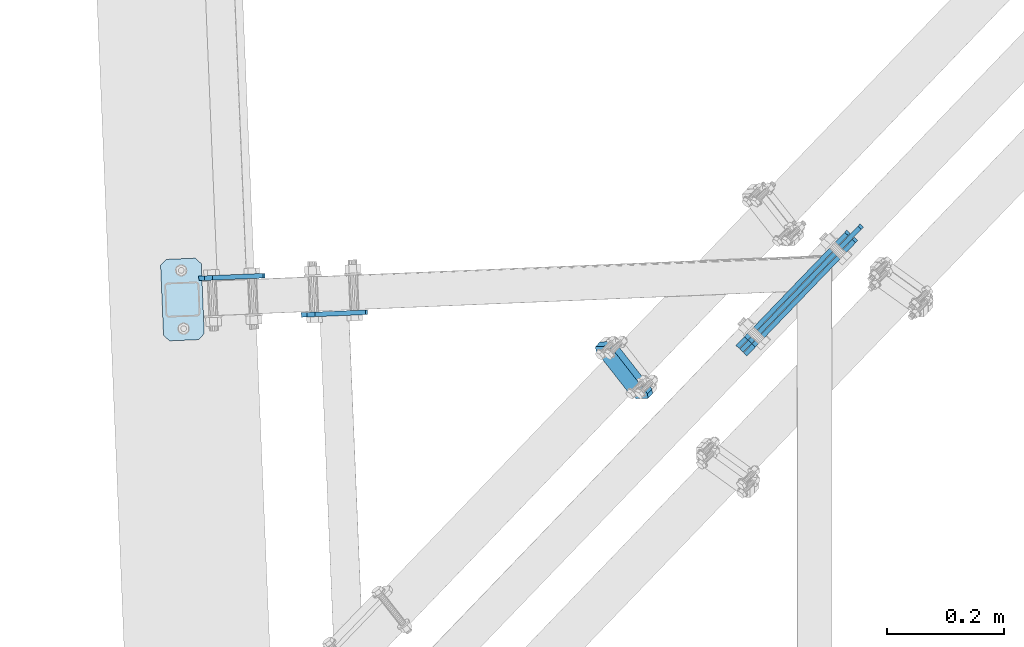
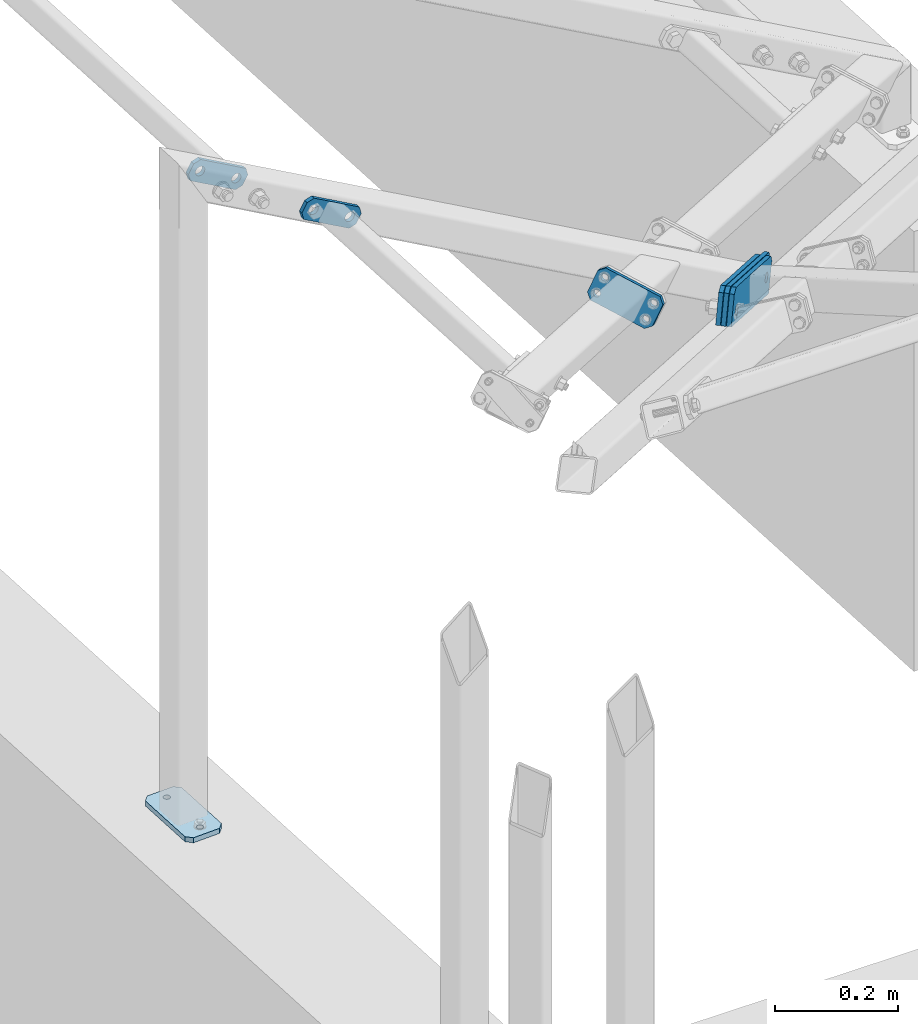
# One storey, part 25 of 288: 7 plates, 38 openings.
"""IFC2X3 building model written with IfcOpenShell, lengths in millimetres."""

import ifcopenshell
import ifcopenshell.guid

model = None  # the IFC model being written
_history = None  # IfcOwnerHistory: only IFC2X3 demands one
_inside = {}  # id of a spatial element -> (the spatial element, [elements in it])
_under = {}  # id of a project, library or spatial element -> (it, [spatial elements below it])
_declared = {}  # id of a project -> (the project, [libraries it declares])
_typed = {}  # id of a type object -> (the type object, [elements of that type])
_made_of = {}  # id of a material, layer set ... -> (it, [elements and type objects made of it])


def new_model(schema):
    """Start an empty IFC model of exactly this schema.

    Asked for "IFC4X3", IfcOpenShell would pick the latest addendum, in which some entities
    have other attributes; the version numbers below select the first issue.
    IFC2X3 requires an IfcOwnerHistory on every rooted entity: one is made here for all.
    """
    global model, _history
    if schema == "IFC4X3":
        model = ifcopenshell.file(schema_version=(4, 3, 0, 0))
    else:
        model = ifcopenshell.file(schema=schema)
    _inside.clear()
    _under.clear()
    _declared.clear()
    _typed.clear()
    _made_of.clear()
    _history = None
    if model.schema == "IFC2X3":
        org = make("IfcOrganization", Name="unknown")
        user = make(
            "IfcPersonAndOrganization",
            ThePerson=make("IfcPerson", FamilyName="unknown"),
            TheOrganization=org,
        )
        app = make(
            "IfcApplication",
            ApplicationDeveloper=org,
            Version="unknown",
            ApplicationFullName="unknown",
            ApplicationIdentifier="unknown",
        )
        _history = make(
            "IfcOwnerHistory",
            OwningUser=user,
            OwningApplication=app,
            ChangeAction="ADDED",
            CreationDate=0,
        )
    return model


def make(cls, **values):
    """One entity of the class cls with the attributes given. An attribute that is None is left unset."""
    return model.create_entity(
        cls, **{name: value for name, value in values.items() if value is not None}
    )


def entity(cls, *values):
    """Any entity or typed value of the class cls, its attributes in the order of the schema. None: left unset."""
    e = model.create_entity(cls)
    for i, value in enumerate(values):
        if value is not None:
            e[i] = value
    return e


def rooted(cls, **values):
    """An entity with a GlobalId (a new one), such as an element, a storey or a relation."""
    return make(cls, GlobalId=ifcopenshell.guid.new(), OwnerHistory=_history, **values)


def si_unit(unit_type, name, prefix=None):
    """IfcSIUnit, for example si_unit("LENGTHUNIT", "METRE", prefix="MILLI")."""
    return make("IfcSIUnit", UnitType=unit_type, Prefix=prefix, Name=name)


def converted_unit(unit_type, name, factor, base, dimensions=None, offset=None):
    """IfcConversionBasedUnit, such as the inch: factor (a typed value) times the base unit."""
    return make(
        "IfcConversionBasedUnit"
        if offset is None
        else "IfcConversionBasedUnitWithOffset",
        ConversionOffset=offset,
        Dimensions=None
        if dimensions is None
        else entity("IfcDimensionalExponents", *dimensions),
        UnitType=unit_type,
        Name=name,
        ConversionFactor=make(
            "IfcMeasureWithUnit", ValueComponent=factor, UnitComponent=base
        ),
    )


def assignment(units):
    """IfcUnitAssignment: the units of a project."""
    return None if units is None else make("IfcUnitAssignment", Units=units)


def point(xyz):
    """IfcCartesianPoint."""
    return None if xyz is None else make("IfcCartesianPoint", Coordinates=xyz)


def direction(xyz):
    """IfcDirection."""
    return None if xyz is None else make("IfcDirection", DirectionRatios=xyz)


def frame(location, z_axis=None, x_axis=None):
    """IfcAxis2Placement3D, a coordinate frame: its origin and axes. An axis left out is left unset."""
    return make(
        "IfcAxis2Placement3D",
        Location=point(location),
        Axis=direction(z_axis),
        RefDirection=direction(x_axis),
    )


def frame_2d(location, x_axis=None):
    """IfcAxis2Placement2D, a coordinate frame in the plane: its origin and x axis."""
    return make(
        "IfcAxis2Placement2D", Location=point(location), RefDirection=direction(x_axis)
    )


def origin():
    """The frame at (0, 0, 0) with its axes left unset."""
    return frame((0.0, 0.0, 0.0))


def origin_with_axes():
    """The frame at (0, 0, 0) with the z axis (0, 0, 1) and the x axis (1, 0, 0) written out."""
    return frame((0.0, 0.0, 0.0), z_axis=(0.0, 0.0, 1.0), x_axis=(1.0, 0.0, 0.0))


def origin_2d_with_axis():
    """The frame at (0, 0) in the plane with the x axis (1, 0) written out."""
    return frame_2d((0.0, 0.0), x_axis=(1.0, 0.0))


def place(relative_to, where):
    """IfcLocalPlacement: puts the frame where relative to a parent placement (None: the world)."""
    return make(
        "IfcLocalPlacement", PlacementRelTo=relative_to, RelativePlacement=where
    )


def context(
    kind, dimensions, precision=None, world=None, true_north=None, identifier=None
):
    """IfcGeometricRepresentationContext, for example the 3D "Model" context."""
    return make(
        "IfcGeometricRepresentationContext",
        ContextIdentifier=identifier,
        ContextType=kind,
        CoordinateSpaceDimension=dimensions,
        Precision=precision,
        WorldCoordinateSystem=world,
        TrueNorth=true_north,
    )


def project(units=None, contexts=None):
    """IfcProject with its units and contexts."""
    return rooted(
        "IfcProject",
        Name="project",
        RepresentationContexts=contexts,
        UnitsInContext=assignment(units),
    )


def spatial(cls, under=None, at=None, **own):
    """A site, building, storey or space (cls), placed at a placement, below another one or the project."""
    s = rooted(cls, ObjectPlacement=at, **own)
    if under is not None:
        _under.setdefault(under.id(), (under, []))[1].append(s)
    return s


def polyline(points):
    """IfcPolyline through the points."""
    return make("IfcPolyline", Points=[point(p) for p in points])


def circle_curve(where, radius):
    """IfcCircle in the frame where."""
    return make("IfcCircle", Position=where, Radius=radius)


def line_curve(start, along, magnitude):
    """IfcLine from a point along a vector."""
    return make(
        "IfcLine",
        Pnt=point(start),
        Dir=make("IfcVector", Orientation=direction(along), Magnitude=magnitude),
    )


def trimmed(basis, trim1, trim2, sense, master):
    """IfcTrimmedCurve: the piece of a basis curve between two trims."""
    return make(
        "IfcTrimmedCurve",
        BasisCurve=basis,
        Trim1=trim1,
        Trim2=trim2,
        SenseAgreement=sense,
        MasterRepresentation=master,
    )


def segment(curve, same_sense, transition):
    """IfcCompositeCurveSegment."""
    return make(
        "IfcCompositeCurveSegment",
        Transition=transition,
        SameSense=same_sense,
        ParentCurve=curve,
    )


def composite_curve(segments, self_intersect=None):
    """IfcCompositeCurve: segments joined end to end."""
    return make("IfcCompositeCurve", Segments=segments, SelfIntersect=self_intersect)


def profile(cls, at=None, kind="AREA", **sizes):
    """A parametric profile (cls). Its sizes go by their IFC names, for example OverallWidth=200.0."""
    return make(cls, ProfileType=kind, Position=at, **sizes)


def circle(**sizes):
    """IfcCircleProfileDef."""
    return profile("IfcCircleProfileDef", **sizes)


def outline(outer, holes=None, kind="AREA"):
    """IfcArbitraryClosedProfileDef: a profile drawn as a closed curve; with holes, ...WithVoids."""
    if holes is None:
        return make("IfcArbitraryClosedProfileDef", ProfileType=kind, OuterCurve=outer)
    return make(
        "IfcArbitraryProfileDefWithVoids",
        ProfileType=kind,
        OuterCurve=outer,
        InnerCurves=holes,
    )


def extrude(swept, where, along, depth):
    """IfcExtrudedAreaSolid: the profile swept, set in the frame where, extruded along a direction by depth."""
    return make(
        "IfcExtrudedAreaSolid",
        SweptArea=swept,
        Position=where,
        ExtrudedDirection=direction(along),
        Depth=depth,
    )


def shape(context_of_items, identifier, shape_type, items):
    """IfcShapeRepresentation: the items that make up one representation, for example the "Body"."""
    return make(
        "IfcShapeRepresentation",
        ContextOfItems=context_of_items,
        RepresentationIdentifier=identifier,
        RepresentationType=shape_type,
        Items=items,
    )


def material(Name=None, Category=None):
    """IfcMaterial."""
    return make("IfcMaterial", Name=Name, Category=Category)


def layer(
    of_material, thickness, ventilated=None, Name=None, Category=None, Priority=None
):
    """IfcMaterialLayer: one layer of a wall or slab, of a material (None: an air gap)."""
    return make(
        "IfcMaterialLayer",
        Material=of_material,
        LayerThickness=thickness,
        IsVentilated=ventilated,
        Name=Name,
        Category=Category,
        Priority=Priority,
    )


def layer_set(layers, Name=None):
    """IfcMaterialLayerSet."""
    return make("IfcMaterialLayerSet", MaterialLayers=layers, LayerSetName=Name)


def made_of(thing, what):
    """Note that an element or type object is made of a material, layer set ...; save() writes the relation."""
    if what is not None:
        _made_of.setdefault(what.id(), (what, []))[1].append(thing)
    return thing


def element(
    cls,
    number,
    at=None,
    inside=None,
    cuts=None,
    type_object=None,
    material=None,
    context=None,
    identifier="Body",
    shape_type=None,
    held_by="IfcProductDefinitionShape",
    body=None,
    shapes=None,
    **own,
):
    """One element of the class cls, such as IfcWall. Its Tag is "e" and its number.

    at: its placement. inside: the storey or other place that contains it. cuts: it is an
    opening in that element (IfcRelVoidsElement). A single representation is given by context,
    identifier, shape_type and body (its items); several are given by shapes. held_by: the class
    of the entity that holds the representations. save() writes the other relations.
    """
    e = rooted(cls, Tag="e%d" % number, ObjectPlacement=at, **own)
    if body is not None:
        shapes = [shape(context, identifier, shape_type, body)]
    if shapes is not None:
        e.Representation = make(held_by, Representations=shapes)
    if inside is not None:
        _inside.setdefault(inside.id(), (inside, []))[1].append(e)
    if cuts is not None:
        rooted(
            "IfcRelVoidsElement", RelatingBuildingElement=cuts, RelatedOpeningElement=e
        )
    if type_object is not None:
        _typed.setdefault(type_object.id(), (type_object, []))[1].append(e)
    return made_of(e, material)


def aggregate(whole, parts):
    """IfcRelAggregates: a whole, such as a stair, and the parts it consists of."""
    return rooted("IfcRelAggregates", RelatingObject=whole, RelatedObjects=parts)


def save(model, path):
    """Write the relations noted so far, then the file.

    IfcRelAggregates (storeys below a building ...), IfcRelContainedInSpatialStructure (elements
    in a storey), IfcRelDefinesByType, IfcRelAssociatesMaterial and IfcRelDeclares: one each for
    every whole, place, type object, material and project.
    """
    for whole, parts in _under.values():
        aggregate(whole, parts)
    for where, things in _inside.values():
        rooted(
            "IfcRelContainedInSpatialStructure",
            RelatedElements=things,
            RelatingStructure=where,
        )
    for kind, things in _typed.values():
        rooted("IfcRelDefinesByType", RelatedObjects=things, RelatingType=kind)
    for what, things in _made_of.values():
        rooted("IfcRelAssociatesMaterial", RelatedObjects=things, RelatingMaterial=what)
    for by, libraries in _declared.values():
        rooted("IfcRelDeclares", RelatingContext=by, RelatedDefinitions=libraries)
    model.write(path)


model = new_model("IFC2X3")

# Units and contexts
model_context = context("Model", 3, precision=1e-09, world=origin_with_axes())
ifc_project = project(units=[si_unit("LENGTHUNIT", "METRE", prefix="MILLI"), si_unit("AREAUNIT", "SQUARE_METRE"), si_unit("VOLUMEUNIT", "CUBIC_METRE"), converted_unit("PLANEANGLEUNIT", "DEGREE", entity("IfcPlaneAngleMeasure", 0.01745329), si_unit("PLANEANGLEUNIT", "RADIAN"), dimensions=[0, 0, 0, 0, 0, 0, 0])], contexts=[model_context])

# Site, building, storey
site_placement = place(None, origin_with_axes())
site = spatial("IfcSite", under=ifc_project, at=site_placement, Name="Remont ?wietlik?w nad MC w NCPP w Opolu", CompositionType="ELEMENT")
building_placement = place(site_placement, origin_with_axes())
building = spatial("IfcBuilding", under=site, at=building_placement, Name="Konstrukcja 1", CompositionType="ELEMENT")
storey_placement = place(building_placement, origin_with_axes())
storey = spatial("IfcBuildingStorey", under=building, at=storey_placement, Name="Default Storey", CompositionType="ELEMENT", Elevation=0.0)

# Plate, openings
ifc_material = material(Name="S235")
ifc_layer_1 = layer(ifc_material, 8.0)
ifc_layer_set_1 = layer_set([ifc_layer_1], Name="S235")
plate_1_placement = place(None, frame((-140.100623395, 947.885159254, 1232.619325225), z_axis=(-0.041662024, 0.999131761, 1.7472e-05), x_axis=(0.499566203, 0.020815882, 0.866025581)))
plate_1 = element("IfcPlate", 1, at=plate_1_placement, inside=storey, material=ifc_layer_set_1, Name="-", ObjectType="-", context=model_context, shape_type="SweptSolid", body=[
    extrude(outline(polyline([(0.0, 0.0), (40.0, 0.0), (40.0, 120.0), (0.0, 120.0), (0.0, 0.0)])), origin_with_axes(), (0.0, 0.0, 1.0), 8.0),
])
opening_1_placement = place(plate_1_placement, frame((0.0, 0.0, -0.01), z_axis=(0.0, 0.0, 1.0), x_axis=(1.0, 0.0, 0.0)))
element("IfcOpeningElement", 2, at=opening_1_placement, cuts=plate_1, ObjectType="Opening", context=model_context, shape_type="SweptSolid", body=[
    extrude(outline(composite_curve([segment(trimmed(line_curve((40.0, 0.0), (0.0, 1.0), 10.0), [point((40.0, 0.0))], [point((40.0, 10.0))], True, "CARTESIAN"), True, "CONTINUOUS"), segment(trimmed(circle_curve(frame_2d((30.0, 10.0), x_axis=(-1.0, 0.0)), 10.0), [point((40.0, 10.0))], [point((30.0, 0.0))], False, "CARTESIAN"), True, "CONTINUOUS"), segment(trimmed(line_curve((30.0, 0.0), (1.0, 0.0), 10.0), [point((30.0, 0.0))], [point((40.0, 0.0))], True, "CARTESIAN"), True, "CONTINUOUS")], self_intersect=False)), origin(), (0.0, 0.0, 1.0), 8.02),
])
opening_2_placement = place(plate_1_placement, frame((0.0, 0.0, -0.01), z_axis=(0.0, 0.0, 1.0), x_axis=(1.0, 0.0, 0.0)))
element("IfcOpeningElement", 3, at=opening_2_placement, cuts=plate_1, ObjectType="Opening", context=model_context, shape_type="SweptSolid", body=[
    extrude(outline(composite_curve([segment(trimmed(line_curve((0.0, 0.0), (1.0, 0.0), 10.0), [point((0.0, 0.0))], [point((10.0, 0.0))], True, "CARTESIAN"), True, "CONTINUOUS"), segment(trimmed(circle_curve(frame_2d((10.0, 10.0), x_axis=(-1.0, 0.0)), 10.0), [point((10.0, 0.0))], [point((0.0, 10.0))], False, "CARTESIAN"), True, "CONTINUOUS"), segment(trimmed(line_curve((0.0, 10.0), (0.0, -1.0), 10.0), [point((0.0, 10.0))], [point((0.0, 0.0))], True, "CARTESIAN"), True, "CONTINUOUS")], self_intersect=False)), origin(), (0.0, 0.0, 1.0), 8.02),
])
opening_3_placement = place(plate_1_placement, frame((0.0, 0.0, -0.01), z_axis=(0.0, 0.0, 1.0), x_axis=(1.0, 0.0, 0.0)))
element("IfcOpeningElement", 4, at=opening_3_placement, cuts=plate_1, ObjectType="Opening", context=model_context, shape_type="SweptSolid", body=[
    extrude(outline(composite_curve([segment(trimmed(line_curve((40.0, 120.0), (-1.0, 0.0), 10.0), [point((40.0, 120.0))], [point((30.0, 120.0))], True, "CARTESIAN"), True, "CONTINUOUS"), segment(trimmed(circle_curve(frame_2d((30.0, 110.0), x_axis=(-1.0, 0.0)), 10.0), [point((30.0, 120.0))], [point((40.0, 110.0))], False, "CARTESIAN"), True, "CONTINUOUS"), segment(trimmed(line_curve((40.0, 110.0), (0.0, 1.0), 10.0), [point((40.0, 110.0))], [point((40.0, 120.0))], True, "CARTESIAN"), True, "CONTINUOUS")], self_intersect=False)), origin(), (0.0, 0.0, 1.0), 8.02),
])
opening_4_placement = place(plate_1_placement, frame((0.0, 0.0, -0.01), z_axis=(0.0, 0.0, 1.0), x_axis=(1.0, 0.0, 0.0)))
element("IfcOpeningElement", 5, at=opening_4_placement, cuts=plate_1, ObjectType="Opening", context=model_context, shape_type="SweptSolid", body=[
    extrude(outline(composite_curve([segment(trimmed(line_curve((0.0, 120.0), (0.0, -1.0), 10.0), [point((0.0, 120.0))], [point((0.0, 110.0))], True, "CARTESIAN"), True, "CONTINUOUS"), segment(trimmed(circle_curve(frame_2d((10.0, 110.0), x_axis=(-1.0, 0.0)), 10.0), [point((0.0, 110.0))], [point((10.0, 120.0))], False, "CARTESIAN"), True, "CONTINUOUS"), segment(trimmed(line_curve((10.0, 120.0), (-1.0, 0.0), 10.0), [point((10.0, 120.0))], [point((0.0, 120.0))], True, "CARTESIAN"), True, "CONTINUOUS")], self_intersect=False)), origin(), (0.0, 0.0, 1.0), 8.02),
])
opening_5_placement = place(plate_1_placement, frame((20.000010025, 59.99999979, -0.499887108), z_axis=(-2.0054e-05, 4.2e-07, 1.0), x_axis=(0.0, -1.0, 4.2e-07)))
element("IfcOpeningElement", 6, at=opening_5_placement, cuts=plate_1, ObjectType="Opening", context=model_context, shape_type="SweptSolid", body=[
    extrude(circle(Radius=9.001, at=frame_2d((40.0, 0.0), x_axis=(1.0, 0.0))), origin(), (0.0, 0.0, 1.0), 9.000033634),
])
opening_6_placement = place(plate_1_placement, frame((20.000010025, 59.99999979, -0.499887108), z_axis=(-2.0054e-05, 4.2e-07, 1.0), x_axis=(0.0, -1.0, 4.2e-07)))
element("IfcOpeningElement", 7, at=opening_6_placement, cuts=plate_1, ObjectType="Opening", context=model_context, shape_type="SweptSolid", body=[
    extrude(circle(Radius=9.001, at=frame_2d((-40.0, 0.0), x_axis=(1.0, 0.0))), origin(), (0.0, 0.0, 1.0), 9.000033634),
])

plate_2_placement = place(None, frame((35.870301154, 885.16375418, 1132.618023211), z_axis=(-0.041662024, 0.999131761, 1.7472e-05), x_axis=(0.499566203, 0.020815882, 0.866025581)))
plate_2 = element("IfcPlate", 8, at=plate_2_placement, inside=storey, material=ifc_layer_set_1, Name="-", ObjectType="-", context=model_context, shape_type="SweptSolid", body=[
    extrude(outline(polyline([(0.0, 0.0), (40.0, 0.0), (40.0, 120.0), (0.0, 120.0), (0.0, 0.0)])), origin_with_axes(), (0.0, 0.0, 1.0), 8.0),
])
opening_7_placement = place(plate_2_placement, frame((0.0, 0.0, -0.01), z_axis=(0.0, 0.0, 1.0), x_axis=(1.0, 0.0, 0.0)))
element("IfcOpeningElement", 9, at=opening_7_placement, cuts=plate_2, ObjectType="Opening", context=model_context, shape_type="SweptSolid", body=[
    extrude(outline(composite_curve([segment(trimmed(line_curve((40.0, 0.0), (0.0, 1.0), 10.0), [point((40.0, 0.0))], [point((40.0, 10.0))], True, "CARTESIAN"), True, "CONTINUOUS"), segment(trimmed(circle_curve(frame_2d((30.0, 10.0), x_axis=(-1.0, 0.0)), 10.0), [point((40.0, 10.0))], [point((30.0, 0.0))], False, "CARTESIAN"), True, "CONTINUOUS"), segment(trimmed(line_curve((30.0, 0.0), (1.0, 0.0), 10.0), [point((30.0, 0.0))], [point((40.0, 0.0))], True, "CARTESIAN"), True, "CONTINUOUS")], self_intersect=False)), origin(), (0.0, 0.0, 1.0), 8.02),
])
opening_8_placement = place(plate_2_placement, frame((0.0, 0.0, -0.01), z_axis=(0.0, 0.0, 1.0), x_axis=(1.0, 0.0, 0.0)))
element("IfcOpeningElement", 10, at=opening_8_placement, cuts=plate_2, ObjectType="Opening", context=model_context, shape_type="SweptSolid", body=[
    extrude(outline(composite_curve([segment(trimmed(line_curve((0.0, 0.0), (1.0, 0.0), 10.0), [point((0.0, 0.0))], [point((10.0, 0.0))], True, "CARTESIAN"), True, "CONTINUOUS"), segment(trimmed(circle_curve(frame_2d((10.0, 10.0), x_axis=(-1.0, 0.0)), 10.0), [point((10.0, 0.0))], [point((0.0, 10.0))], False, "CARTESIAN"), True, "CONTINUOUS"), segment(trimmed(line_curve((0.0, 10.0), (0.0, -1.0), 10.0), [point((0.0, 10.0))], [point((0.0, 0.0))], True, "CARTESIAN"), True, "CONTINUOUS")], self_intersect=False)), origin(), (0.0, 0.0, 1.0), 8.02),
])
opening_9_placement = place(plate_2_placement, frame((0.0, 0.0, -0.01), z_axis=(0.0, 0.0, 1.0), x_axis=(1.0, 0.0, 0.0)))
element("IfcOpeningElement", 11, at=opening_9_placement, cuts=plate_2, ObjectType="Opening", context=model_context, shape_type="SweptSolid", body=[
    extrude(outline(composite_curve([segment(trimmed(line_curve((40.0, 120.0), (-1.0, 0.0), 10.0), [point((40.0, 120.0))], [point((30.0, 120.0))], True, "CARTESIAN"), True, "CONTINUOUS"), segment(trimmed(circle_curve(frame_2d((30.0, 110.0), x_axis=(-1.0, 0.0)), 10.0), [point((30.0, 120.0))], [point((40.0, 110.0))], False, "CARTESIAN"), True, "CONTINUOUS"), segment(trimmed(line_curve((40.0, 110.0), (0.0, 1.0), 10.0), [point((40.0, 110.0))], [point((40.0, 120.0))], True, "CARTESIAN"), True, "CONTINUOUS")], self_intersect=False)), origin(), (0.0, 0.0, 1.0), 8.02),
])
opening_10_placement = place(plate_2_placement, frame((0.0, 0.0, -0.01), z_axis=(0.0, 0.0, 1.0), x_axis=(1.0, 0.0, 0.0)))
element("IfcOpeningElement", 12, at=opening_10_placement, cuts=plate_2, ObjectType="Opening", context=model_context, shape_type="SweptSolid", body=[
    extrude(outline(composite_curve([segment(trimmed(line_curve((0.0, 120.0), (0.0, -1.0), 10.0), [point((0.0, 120.0))], [point((0.0, 110.0))], True, "CARTESIAN"), True, "CONTINUOUS"), segment(trimmed(circle_curve(frame_2d((10.0, 110.0), x_axis=(-1.0, 0.0)), 10.0), [point((0.0, 110.0))], [point((10.0, 120.0))], False, "CARTESIAN"), True, "CONTINUOUS"), segment(trimmed(line_curve((10.0, 120.0), (-1.0, 0.0), 10.0), [point((10.0, 120.0))], [point((0.0, 120.0))], True, "CARTESIAN"), True, "CONTINUOUS")], self_intersect=False)), origin(), (0.0, 0.0, 1.0), 8.02),
])
opening_11_placement = place(plate_2_placement, frame((19.999829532, 29.001003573, 8.499866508), z_axis=(-2.0054e-05, 4.2e-07, 1.0), x_axis=(1.0, 0.0, 2.0054e-05)))
element("IfcOpeningElement", 13, at=opening_11_placement, cuts=plate_2, ObjectType="Opening", context=model_context, shape_type="SweptSolid", body=[
    extrude(circle(Radius=9.001, at=frame_2d((-5e-09, -9.001), x_axis=(1.0, 0.0))), origin(), (0.0, 0.0, -1.0), 9.000033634),
])
opening_12_placement = place(plate_2_placement, frame((19.999829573, 109.001003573, 8.499832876), z_axis=(-2.0054e-05, 4.2e-07, 1.0), x_axis=(1.0, 0.0, 2.0054e-05)))
element("IfcOpeningElement", 14, at=opening_12_placement, cuts=plate_2, ObjectType="Opening", context=model_context, shape_type="SweptSolid", body=[
    extrude(circle(Radius=9.001, at=frame_2d((-5e-09, -9.001), x_axis=(1.0, 0.0))), origin(), (0.0, 0.0, -1.0), 9.000033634),
])

plate_3_placement = place(None, frame((991.954028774, 1013.070315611, 554.425265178), z_axis=(-0.72093759, 0.692999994, 0.0), x_axis=(-0.639589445, -0.665373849, 0.384971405)))
plate_3 = element("IfcPlate", 15, at=plate_3_placement, inside=storey, material=ifc_layer_set_1, Name="Plate", ObjectType="Plate", context=model_context, shape_type="SweptSolid", body=[
    extrude(outline(polyline([(25.113624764, 20.0), (300.0, 20.0), (300.0, 84.778335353), (25.113624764, 84.778335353), (25.113624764, 20.0)])), origin_with_axes(), (0.0, 0.0, 1.0), 8.0),
])
opening_13_placement = place(plate_3_placement, frame((55.113624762, 52.846091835, 8.5), z_axis=(0.0, 0.0, -1.0), x_axis=(0.0, 1.0, 0.0)))
element("IfcOpeningElement", 16, at=opening_13_placement, cuts=plate_3, ObjectType="Opening", context=model_context, shape_type="SweptSolid", body=[
    extrude(circle(Radius=9.001, at=origin_2d_with_axis()), origin(), (0.0, 0.0, 1.0), 9.0),
])
opening_14_placement = place(plate_3_placement, frame((270.0, 42.389167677, 8.5), z_axis=(0.0, 0.0, -1.0), x_axis=(0.0, 1.0, 0.0)))
element("IfcOpeningElement", 17, at=opening_14_placement, cuts=plate_3, ObjectType="Opening", context=model_context, shape_type="SweptSolid", body=[
    extrude(circle(Radius=9.001, at=origin_2d_with_axis()), origin(), (0.0, 0.0, 1.0), 9.0),
])
opening_15_placement = place(plate_3_placement, frame((0.0, 0.0, -0.01), z_axis=(0.0, 0.0, 1.0), x_axis=(1.0, 0.0, 0.0)))
element("IfcOpeningElement", 18, at=opening_15_placement, cuts=plate_3, ObjectType="Opening", context=model_context, shape_type="SweptSolid", body=[
    extrude(outline(composite_curve([segment(trimmed(line_curve((300.0, 84.778335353), (-1.0, 0.0), 10.0), [point((300.0, 84.778335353))], [point((290.0, 84.778335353))], True, "CARTESIAN"), True, "CONTINUOUS"), segment(trimmed(circle_curve(frame_2d((290.0, 74.778335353), x_axis=(-1.0, 0.0)), 10.0), [point((290.0, 84.778335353))], [point((300.0, 74.778335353))], False, "CARTESIAN"), True, "CONTINUOUS"), segment(trimmed(line_curve((300.0, 74.778335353), (0.0, 1.0), 10.0), [point((300.0, 74.778335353))], [point((300.0, 84.778335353))], True, "CARTESIAN"), True, "CONTINUOUS")], self_intersect=False)), origin(), (0.0, 0.0, 1.0), 8.02),
])
opening_16_placement = place(plate_3_placement, frame((0.0, 0.0, -0.01), z_axis=(0.0, 0.0, 1.0), x_axis=(1.0, 0.0, 0.0)))
element("IfcOpeningElement", 19, at=opening_16_placement, cuts=plate_3, ObjectType="Opening", context=model_context, shape_type="SweptSolid", body=[
    extrude(outline(composite_curve([segment(trimmed(line_curve((25.113624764, 84.778335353), (0.0, -1.0), 10.0), [point((25.113624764, 84.778335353))], [point((25.113624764, 74.778335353))], True, "CARTESIAN"), True, "CONTINUOUS"), segment(trimmed(circle_curve(frame_2d((35.113624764, 74.778335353), x_axis=(-1.0, 0.0)), 10.0), [point((25.113624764, 74.778335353))], [point((35.113624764, 84.778335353))], False, "CARTESIAN"), True, "CONTINUOUS"), segment(trimmed(line_curve((35.113624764, 84.778335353), (-1.0, 0.0), 10.0), [point((35.113624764, 84.778335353))], [point((25.113624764, 84.778335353))], True, "CARTESIAN"), True, "CONTINUOUS")], self_intersect=False)), origin(), (0.0, 0.0, 1.0), 8.02),
])

plate_4_placement = place(None, frame((978.977152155, 1025.544315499, 554.425265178), z_axis=(-0.72093759, 0.692999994, 0.0), x_axis=(-0.639589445, -0.665373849, 0.384971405)))
plate_4 = element("IfcPlate", 20, at=plate_4_placement, inside=storey, material=ifc_layer_set_1, Name="Plate", ObjectType="Plate", context=model_context, shape_type="SweptSolid", body=[
    extrude(outline(polyline([(25.113624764, 20.0), (300.0, 20.0), (300.0, 84.740808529), (25.113624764, 84.740808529), (25.113624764, 20.0)])), origin_with_axes(), (0.0, 0.0, 1.0), 8.0),
])
opening_17_placement = place(plate_4_placement, frame((55.113624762, 52.846091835, 8.5), z_axis=(0.0, 0.0, -1.0), x_axis=(0.0, 1.0, 0.0)))
element("IfcOpeningElement", 21, at=opening_17_placement, cuts=plate_4, ObjectType="Opening", context=model_context, shape_type="SweptSolid", body=[
    extrude(circle(Radius=9.001, at=origin_2d_with_axis()), origin(), (0.0, 0.0, 1.0), 9.0),
])
opening_18_placement = place(plate_4_placement, frame((270.0, 42.389167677, 8.5), z_axis=(0.0, 0.0, -1.0), x_axis=(0.0, 1.0, 0.0)))
element("IfcOpeningElement", 22, at=opening_18_placement, cuts=plate_4, ObjectType="Opening", context=model_context, shape_type="SweptSolid", body=[
    extrude(circle(Radius=9.001, at=origin_2d_with_axis()), origin(), (0.0, 0.0, 1.0), 9.0),
])
opening_19_placement = place(plate_4_placement, frame((0.0, 0.0, -0.01), z_axis=(0.0, 0.0, 1.0), x_axis=(1.0, 0.0, 0.0)))
element("IfcOpeningElement", 23, at=opening_19_placement, cuts=plate_4, ObjectType="Opening", context=model_context, shape_type="SweptSolid", body=[
    extrude(outline(composite_curve([segment(trimmed(line_curve((300.0, 84.740808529), (-1.0, 0.0), 10.0), [point((300.0, 84.740808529))], [point((290.0, 84.740808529))], True, "CARTESIAN"), True, "CONTINUOUS"), segment(trimmed(circle_curve(frame_2d((290.0, 74.740808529), x_axis=(-1.0, 0.0)), 10.0), [point((290.0, 84.740808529))], [point((300.0, 74.740808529))], False, "CARTESIAN"), True, "CONTINUOUS"), segment(trimmed(line_curve((300.0, 74.740808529), (0.0, 1.0), 10.0), [point((300.0, 74.740808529))], [point((300.0, 84.740808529))], True, "CARTESIAN"), True, "CONTINUOUS")], self_intersect=False)), origin(), (0.0, 0.0, 1.0), 8.02),
])
opening_20_placement = place(plate_4_placement, frame((0.0, 0.0, -0.01), z_axis=(0.0, 0.0, 1.0), x_axis=(1.0, 0.0, 0.0)))
element("IfcOpeningElement", 24, at=opening_20_placement, cuts=plate_4, ObjectType="Opening", context=model_context, shape_type="SweptSolid", body=[
    extrude(outline(composite_curve([segment(trimmed(line_curve((25.113624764, 84.740808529), (0.0, -1.0), 10.0), [point((25.113624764, 84.740808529))], [point((25.113624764, 74.740808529))], True, "CARTESIAN"), True, "CONTINUOUS"), segment(trimmed(circle_curve(frame_2d((35.113624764, 74.740808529), x_axis=(-1.0, 0.0)), 10.0), [point((25.113624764, 74.740808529))], [point((35.113624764, 84.740808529))], False, "CARTESIAN"), True, "CONTINUOUS"), segment(trimmed(line_curve((35.113624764, 84.740808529), (-1.0, 0.0), 10.0), [point((35.113624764, 84.740808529))], [point((25.113624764, 84.740808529))], True, "CARTESIAN"), True, "CONTINUOUS")], self_intersect=False)), origin(), (0.0, 0.0, 1.0), 8.02),
])

plate_5_placement = place(None, frame((990.801294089, 1024.858122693, 572.883835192), z_axis=(-0.72093759, 0.692999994, 0.0), x_axis=(-0.639589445, -0.665373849, 0.384971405)))
plate_5 = element("IfcPlate", 25, at=plate_5_placement, inside=storey, material=ifc_layer_set_1, Name="Plate", ObjectType="Plate", context=model_context, shape_type="SweptSolid", body=[
    extrude(outline(polyline([(0.0, 0.0), (300.0, 0.0), (300.0, 65.0), (0.0, 65.0), (0.0, 0.0)])), origin_with_axes(), (0.0, 0.0, 1.0), 8.0),
])
opening_21_placement = place(plate_5_placement, frame((55.113624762, 32.846091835, 8.5), z_axis=(0.0, 0.0, -1.0), x_axis=(0.0, 1.0, 0.0)))
element("IfcOpeningElement", 26, at=opening_21_placement, cuts=plate_5, ObjectType="Opening", context=model_context, shape_type="SweptSolid", body=[
    extrude(circle(Radius=9.001, at=origin_2d_with_axis()), origin(), (0.0, 0.0, 1.0), 9.0),
])
opening_22_placement = place(plate_5_placement, frame((270.0, 22.389167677, 8.5), z_axis=(0.0, 0.0, -1.0), x_axis=(0.0, 1.0, 0.0)))
element("IfcOpeningElement", 27, at=opening_22_placement, cuts=plate_5, ObjectType="Opening", context=model_context, shape_type="SweptSolid", body=[
    extrude(circle(Radius=9.001, at=origin_2d_with_axis()), origin(), (0.0, 0.0, 1.0), 9.0),
])
opening_23_placement = place(plate_5_placement, frame((0.0, 0.0, -0.01), z_axis=(0.0, 0.0, 1.0), x_axis=(1.0, 0.0, 0.0)))
element("IfcOpeningElement", 28, at=opening_23_placement, cuts=plate_5, ObjectType="Opening", context=model_context, shape_type="SweptSolid", body=[
    extrude(outline(composite_curve([segment(trimmed(line_curve((300.0, 65.0), (-1.0, 0.0), 10.0), [point((300.0, 65.0))], [point((290.0, 65.0))], True, "CARTESIAN"), True, "CONTINUOUS"), segment(trimmed(circle_curve(frame_2d((290.0, 55.0), x_axis=(-1.0, 0.0)), 10.0), [point((290.0, 65.0))], [point((300.0, 55.0))], False, "CARTESIAN"), True, "CONTINUOUS"), segment(trimmed(line_curve((300.0, 55.0), (0.0, 1.0), 10.0), [point((300.0, 55.0))], [point((300.0, 65.0))], True, "CARTESIAN"), True, "CONTINUOUS")], self_intersect=False)), origin(), (0.0, 0.0, 1.0), 8.02),
])
opening_24_placement = place(plate_5_placement, frame((0.0, 0.0, -0.01), z_axis=(0.0, 0.0, 1.0), x_axis=(1.0, 0.0, 0.0)))
element("IfcOpeningElement", 29, at=opening_24_placement, cuts=plate_5, ObjectType="Opening", context=model_context, shape_type="SweptSolid", body=[
    extrude(outline(composite_curve([segment(trimmed(line_curve((0.0, 65.0), (0.0, -1.0), 10.0), [point((0.0, 65.0))], [point((0.0, 55.0))], True, "CARTESIAN"), True, "CONTINUOUS"), segment(trimmed(circle_curve(frame_2d((10.0, 55.0), x_axis=(-1.0, 0.0)), 10.0), [point((0.0, 55.0))], [point((10.0, 65.0))], False, "CARTESIAN"), True, "CONTINUOUS"), segment(trimmed(line_curve((10.0, 65.0), (-1.0, 0.0), 10.0), [point((10.0, 65.0))], [point((0.0, 65.0))], True, "CARTESIAN"), True, "CONTINUOUS")], self_intersect=False)), origin(), (0.0, 0.0, 1.0), 8.02),
])

ifc_layer_2 = layer(ifc_material, 10.0)
ifc_layer_set_2 = layer_set([ifc_layer_2], Name="S235")
plate_6_placement = place(None, frame((-125.422064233, 847.409152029, 9.999999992), z_axis=(0.0, 0.0, -1.0), x_axis=(-0.999131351, -0.041671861, 0.0)))
plate_6 = element("IfcPlate", 30, at=plate_6_placement, inside=storey, material=ifc_layer_set_2, Name="Baseplate", ObjectType="Baseplate", context=model_context, shape_type="SweptSolid", body=[
    extrude(outline(polyline([(0.0, 0.0), (70.0, 0.0), (70.0, 140.0), (0.0, 140.0), (0.0, 0.0)])), origin_with_axes(), (0.0, 0.0, 1.0), 10.0),
])
opening_25_placement = place(plate_6_placement, frame((0.0, 0.0, -0.01), z_axis=(0.0, 0.0, 1.0), x_axis=(1.0, 0.0, 0.0)))
element("IfcOpeningElement", 31, at=opening_25_placement, cuts=plate_6, ObjectType="Opening", context=model_context, shape_type="SweptSolid", body=[
    extrude(outline(composite_curve([segment(trimmed(line_curve((70.0, 0.0), (0.0, 1.0), 10.0), [point((70.0, 0.0))], [point((70.0, 10.0))], True, "CARTESIAN"), True, "CONTINUOUS"), segment(trimmed(circle_curve(frame_2d((60.0, 10.0), x_axis=(-1.0, 0.0)), 10.0), [point((70.0, 10.0))], [point((60.0, 0.0))], False, "CARTESIAN"), True, "CONTINUOUS"), segment(trimmed(line_curve((60.0, 0.0), (1.0, 0.0), 10.0), [point((60.0, 0.0))], [point((70.0, 0.0))], True, "CARTESIAN"), True, "CONTINUOUS")], self_intersect=False)), origin(), (0.0, 0.0, 1.0), 10.02),
])
opening_26_placement = place(plate_6_placement, frame((0.0, 0.0, -0.01), z_axis=(0.0, 0.0, 1.0), x_axis=(1.0, 0.0, 0.0)))
element("IfcOpeningElement", 32, at=opening_26_placement, cuts=plate_6, ObjectType="Opening", context=model_context, shape_type="SweptSolid", body=[
    extrude(outline(composite_curve([segment(trimmed(line_curve((0.0, 0.0), (1.0, 0.0), 10.0), [point((0.0, 0.0))], [point((10.0, 0.0))], True, "CARTESIAN"), True, "CONTINUOUS"), segment(trimmed(circle_curve(frame_2d((10.0, 10.0), x_axis=(-1.0, 0.0)), 10.0), [point((10.0, 0.0))], [point((0.0, 10.0))], False, "CARTESIAN"), True, "CONTINUOUS"), segment(trimmed(line_curve((0.0, 10.0), (0.0, -1.0), 10.0), [point((0.0, 10.0))], [point((0.0, 0.0))], True, "CARTESIAN"), True, "CONTINUOUS")], self_intersect=False)), origin(), (0.0, 0.0, 1.0), 10.02),
])
opening_27_placement = place(plate_6_placement, frame((0.0, 0.0, -0.01), z_axis=(0.0, 0.0, 1.0), x_axis=(1.0, 0.0, 0.0)))
element("IfcOpeningElement", 33, at=opening_27_placement, cuts=plate_6, ObjectType="Opening", context=model_context, shape_type="SweptSolid", body=[
    extrude(outline(composite_curve([segment(trimmed(line_curve((70.0, 140.0), (-1.0, 0.0), 10.0), [point((70.0, 140.0))], [point((60.0, 140.0))], True, "CARTESIAN"), True, "CONTINUOUS"), segment(trimmed(circle_curve(frame_2d((60.0, 130.0), x_axis=(-1.0, 0.0)), 10.0), [point((60.0, 140.0))], [point((70.0, 130.0))], False, "CARTESIAN"), True, "CONTINUOUS"), segment(trimmed(line_curve((70.0, 130.0), (0.0, 1.0), 10.0), [point((70.0, 130.0))], [point((70.0, 140.0))], True, "CARTESIAN"), True, "CONTINUOUS")], self_intersect=False)), origin(), (0.0, 0.0, 1.0), 10.02),
])
opening_28_placement = place(plate_6_placement, frame((0.0, 0.0, -0.01), z_axis=(0.0, 0.0, 1.0), x_axis=(1.0, 0.0, 0.0)))
element("IfcOpeningElement", 34, at=opening_28_placement, cuts=plate_6, ObjectType="Opening", context=model_context, shape_type="SweptSolid", body=[
    extrude(outline(composite_curve([segment(trimmed(line_curve((0.0, 140.0), (0.0, -1.0), 10.0), [point((0.0, 140.0))], [point((0.0, 130.0))], True, "CARTESIAN"), True, "CONTINUOUS"), segment(trimmed(circle_curve(frame_2d((10.0, 130.0), x_axis=(-1.0, 0.0)), 10.0), [point((0.0, 130.0))], [point((10.0, 140.0))], False, "CARTESIAN"), True, "CONTINUOUS"), segment(trimmed(line_curve((10.0, 140.0), (-1.0, 0.0), 10.0), [point((10.0, 140.0))], [point((0.0, 140.0))], True, "CARTESIAN"), True, "CONTINUOUS")], self_intersect=False)), origin(), (0.0, 0.0, 1.0), 10.02),
])
opening_29_placement = place(plate_6_placement, frame((35.0, 120.0, 10.5), z_axis=(0.0, 0.0, -1.0), x_axis=(1.0, 0.0, 0.0)))
element("IfcOpeningElement", 35, at=opening_29_placement, cuts=plate_6, ObjectType="Opening", context=model_context, shape_type="SweptSolid", body=[
    extrude(circle(Radius=6.001, at=origin_2d_with_axis()), origin(), (0.0, 0.0, 1.0), 11.0),
])
opening_30_placement = place(plate_6_placement, frame((35.0, 20.0, 10.5), z_axis=(0.0, 0.0, -1.0), x_axis=(1.0, 0.0, 0.0)))
element("IfcOpeningElement", 36, at=opening_30_placement, cuts=plate_6, ObjectType="Opening", context=model_context, shape_type="SweptSolid", body=[
    extrude(circle(Radius=6.001, at=origin_2d_with_axis()), origin(), (0.0, 0.0, 1.0), 11.0),
])

ifc_layer_3 = layer(ifc_material, 12.0)
ifc_layer_set_3 = layer_set([ifc_layer_3], Name="S235")
plate_7_placement = place(None, frame((540.676640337, 834.873207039, 831.197291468), z_axis=(0.639589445, 0.665373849, -0.384971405), x_axis=(0.499581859, 0.020836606, 0.866016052)))
plate_7 = element("IfcPlate", 37, at=plate_7_placement, inside=storey, material=ifc_layer_set_3, Name="Endplate#2", ObjectType="Endplate#2", context=model_context, shape_type="SweptSolid", body=[
    extrude(outline(polyline([(0.0, 0.0), (60.0, 0.0), (60.0, 120.0), (0.0, 120.0), (0.0, 0.0)])), origin_with_axes(), (0.0, 0.0, 1.0), 12.0),
])
opening_31_placement = place(plate_7_placement, frame((0.0, 0.0, -0.01), z_axis=(0.0, 0.0, 1.0), x_axis=(1.0, 0.0, 0.0)))
element("IfcOpeningElement", 38, at=opening_31_placement, cuts=plate_7, ObjectType="Opening", context=model_context, shape_type="SweptSolid", body=[
    extrude(outline(composite_curve([segment(trimmed(line_curve((60.0, 120.0), (-1.0, 0.0), 10.0), [point((60.0, 120.0))], [point((50.0, 120.0))], True, "CARTESIAN"), True, "CONTINUOUS"), segment(trimmed(circle_curve(frame_2d((50.0, 110.0), x_axis=(-1.0, 0.0)), 10.0), [point((50.0, 120.0))], [point((60.0, 110.0))], False, "CARTESIAN"), True, "CONTINUOUS"), segment(trimmed(line_curve((60.0, 110.0), (0.0, 1.0), 10.0), [point((60.0, 110.0))], [point((60.0, 120.0))], True, "CARTESIAN"), True, "CONTINUOUS")], self_intersect=False)), origin(), (0.0, 0.0, 1.0), 12.02),
])
opening_32_placement = place(plate_7_placement, frame((0.0, 0.0, -0.01), z_axis=(0.0, 0.0, 1.0), x_axis=(1.0, 0.0, 0.0)))
element("IfcOpeningElement", 39, at=opening_32_placement, cuts=plate_7, ObjectType="Opening", context=model_context, shape_type="SweptSolid", body=[
    extrude(outline(composite_curve([segment(trimmed(line_curve((0.0, 120.0), (0.0, -1.0), 10.0), [point((0.0, 120.0))], [point((0.0, 110.0))], True, "CARTESIAN"), True, "CONTINUOUS"), segment(trimmed(circle_curve(frame_2d((10.0, 110.0), x_axis=(-1.0, 0.0)), 10.0), [point((0.0, 110.0))], [point((10.0, 120.0))], False, "CARTESIAN"), True, "CONTINUOUS"), segment(trimmed(line_curve((10.0, 120.0), (-1.0, 0.0), 10.0), [point((10.0, 120.0))], [point((0.0, 120.0))], True, "CARTESIAN"), True, "CONTINUOUS")], self_intersect=False)), origin(), (0.0, 0.0, 1.0), 12.02),
])
opening_33_placement = place(plate_7_placement, frame((0.0, 0.0, -0.01), z_axis=(0.0, 0.0, 1.0), x_axis=(1.0, 0.0, 0.0)))
element("IfcOpeningElement", 40, at=opening_33_placement, cuts=plate_7, ObjectType="Opening", context=model_context, shape_type="SweptSolid", body=[
    extrude(outline(composite_curve([segment(trimmed(line_curve((0.0, 0.0), (1.0, 0.0), 10.0), [point((0.0, 0.0))], [point((10.0, 0.0))], True, "CARTESIAN"), True, "CONTINUOUS"), segment(trimmed(circle_curve(frame_2d((10.0, 10.0), x_axis=(-1.0, 0.0)), 10.0), [point((10.0, 0.0))], [point((0.0, 10.0))], False, "CARTESIAN"), True, "CONTINUOUS"), segment(trimmed(line_curve((0.0, 10.0), (0.0, -1.0), 10.0), [point((0.0, 10.0))], [point((0.0, 0.0))], True, "CARTESIAN"), True, "CONTINUOUS")], self_intersect=False)), origin(), (0.0, 0.0, 1.0), 12.02),
])
opening_34_placement = place(plate_7_placement, frame((0.0, 0.0, -0.01), z_axis=(0.0, 0.0, 1.0), x_axis=(1.0, 0.0, 0.0)))
element("IfcOpeningElement", 41, at=opening_34_placement, cuts=plate_7, ObjectType="Opening", context=model_context, shape_type="SweptSolid", body=[
    extrude(outline(composite_curve([segment(trimmed(line_curve((60.0, 0.0), (0.0, 1.0), 10.0), [point((60.0, 0.0))], [point((60.0, 10.0))], True, "CARTESIAN"), True, "CONTINUOUS"), segment(trimmed(circle_curve(frame_2d((50.0, 10.0), x_axis=(-1.0, 0.0)), 10.0), [point((60.0, 10.0))], [point((50.0, 0.0))], False, "CARTESIAN"), True, "CONTINUOUS"), segment(trimmed(line_curve((50.0, 0.0), (1.0, 0.0), 10.0), [point((50.0, 0.0))], [point((60.0, 0.0))], True, "CARTESIAN"), True, "CONTINUOUS")], self_intersect=False)), origin(), (0.0, 0.0, 1.0), 12.02),
])
opening_35_placement = place(plate_7_placement, frame((15.0, 60.0, 12.5), z_axis=(0.0, 0.0, -1.0), x_axis=(1.0, 0.0, 0.0)))
element("IfcOpeningElement", 42, at=opening_35_placement, cuts=plate_7, ObjectType="Opening", context=model_context, shape_type="SweptSolid", body=[
    extrude(circle(Radius=6.001, at=frame_2d((0.0, 45.0), x_axis=(1.0, 0.0))), origin(), (0.0, 0.0, 1.0), 13.0),
])
opening_36_placement = place(plate_7_placement, frame((15.0, 60.0, 12.5), z_axis=(0.0, 0.0, -1.0), x_axis=(1.0, 0.0, 0.0)))
element("IfcOpeningElement", 43, at=opening_36_placement, cuts=plate_7, ObjectType="Opening", context=model_context, shape_type="SweptSolid", body=[
    extrude(circle(Radius=6.001, at=frame_2d((0.0, -45.0), x_axis=(1.0, 0.0))), origin(), (0.0, 0.0, 1.0), 13.0),
])
opening_37_placement = place(plate_7_placement, frame((45.0, 60.0, 12.5), z_axis=(0.0, 0.0, -1.0), x_axis=(1.0, 0.0, 0.0)))
element("IfcOpeningElement", 44, at=opening_37_placement, cuts=plate_7, ObjectType="Opening", context=model_context, shape_type="SweptSolid", body=[
    extrude(circle(Radius=6.001, at=frame_2d((0.0, 45.0), x_axis=(1.0, 0.0))), origin(), (0.0, 0.0, 1.0), 13.0),
])
opening_38_placement = place(plate_7_placement, frame((45.0, 60.0, 12.5), z_axis=(0.0, 0.0, -1.0), x_axis=(1.0, 0.0, 0.0)))
element("IfcOpeningElement", 45, at=opening_38_placement, cuts=plate_7, ObjectType="Opening", context=model_context, shape_type="SweptSolid", body=[
    extrude(circle(Radius=6.001, at=frame_2d((0.0, -45.0), x_axis=(1.0, 0.0))), origin(), (0.0, 0.0, 1.0), 13.0),
])

save(model, "model.ifc")
